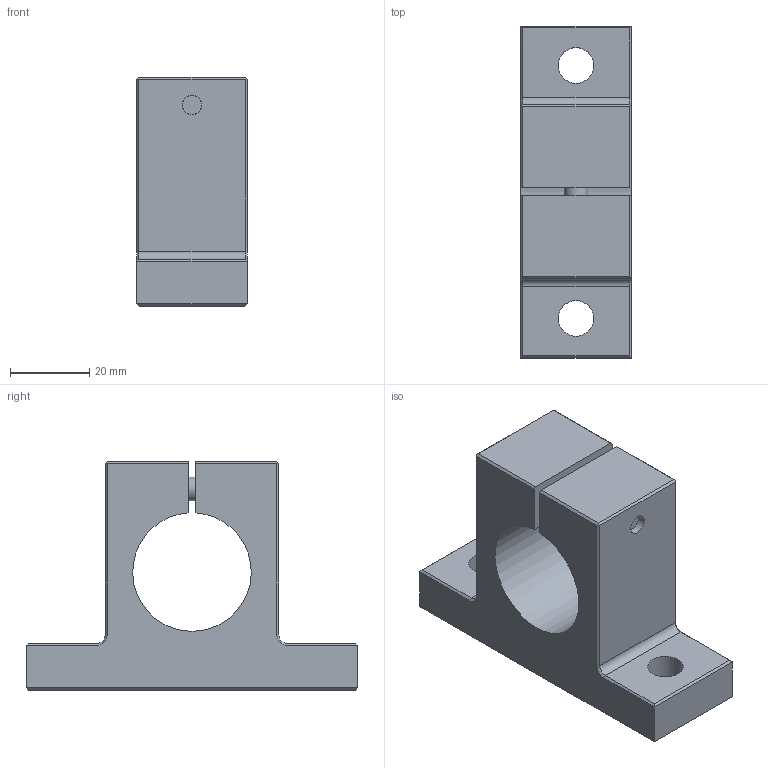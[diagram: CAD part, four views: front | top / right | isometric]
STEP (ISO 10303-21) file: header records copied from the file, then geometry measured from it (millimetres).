
FILE_DESCRIPTION((''),'2;1');
FILE_NAME('D:\製品 (図面)\カタログ用3D\シャフトブロック関連\STEP形式\SHA\SHA30.stp','2010-06-01T16:38:30',('Tsuchiya'),(''),'Autodesk Inventor 10','Autodesk Inventor 10','');
FILE_SCHEMA(('AUTOMOTIVE_DESIGN { 1 0 10303 214 1 1 1 1 }'));
Length unit declared in the file: millimetre
Products named in the file (1): SHA30
Bounding box: 28 x 84 x 58 mm (x, y, z)
Volume: 62487 mm3; surface area: 17027.9 mm2
Topology: 1 solids, 1 shells, 60 faces, 147 edges, 93 vertices
Faces by surface type: plane 42, cylinder 7, cone 6, bspline 4, torus 1
Full cylindrical faces by diameter (mm): 6 x1, 9 x2, 10 x1
Entity records: 1710 total; most frequent: CARTESIAN_POINT 347, DIRECTION 266, ORIENTED_EDGE 264, EDGE_CURVE 132, VECTOR 100, LINE 100, VERTEX_POINT 88, AXIS2_PLACEMENT_3D 83
